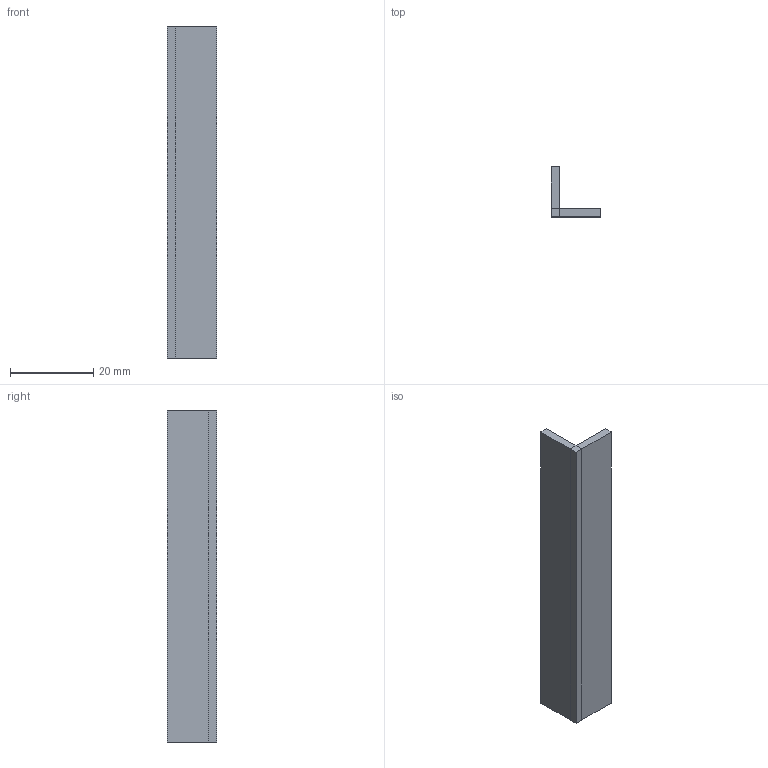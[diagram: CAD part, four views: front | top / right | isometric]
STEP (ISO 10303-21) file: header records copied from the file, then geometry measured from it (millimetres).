
FILE_DESCRIPTION(('Open CASCADE Model'),'2;1');
FILE_NAME('Open CASCADE Shape Model','2026-07-01T01:50:08',('Author'),( 'Open CASCADE'),'Open CASCADE STEP processor 7.9','Open CASCADE 7.9' ,'Unknown');
FILE_SCHEMA(('AUTOMOTIVE_DESIGN { 1 0 10303 214 1 1 1 1 }'));
Length unit declared in the file: millimetre
Products named in the file (1): Open CASCADE STEP translator 7.9 2
Bounding box: 12 x 12 x 80 mm (x, y, z)
Volume: 3520 mm3; surface area: 3928 mm2
Topology: 1 solids, 1 shells, 14 faces, 28 edges, 16 vertices
Faces by surface type: plane 14
Entity records: 720 total; most frequent: CARTESIAN_POINT 117, DIRECTION 112, LINE 82, VECTOR 82, ORIENTED_EDGE 56, PCURVE 56, DEFINITIONAL_REPRESENTATION 56, EDGE_CURVE 28
